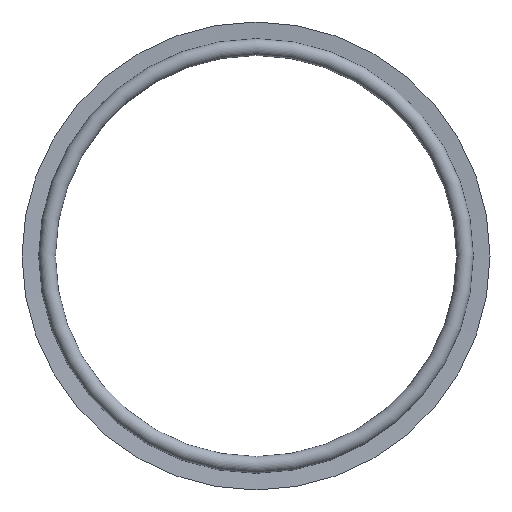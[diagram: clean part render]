
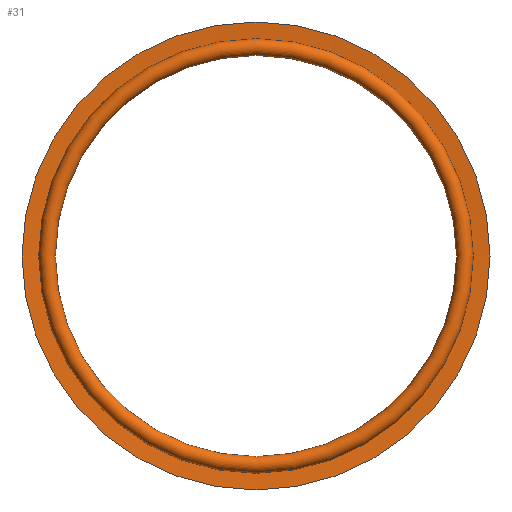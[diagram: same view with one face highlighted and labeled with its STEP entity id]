
A CAD part, top view. The second image highlights one B-rep face of the part: STEP entity #31.
In plain terms, the highlighted toroidal (fillet/blend) face has major radius 5 mm and minor radius 0.2 mm.
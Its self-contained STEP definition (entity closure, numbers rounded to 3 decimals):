
#1=CARTESIAN_POINT('',(0.,0.,0.));
#2=CARTESIAN_POINT('',(5.2,0.,0.));
#3=CARTESIAN_POINT('',(5.6,0.,0.));
#4=VERTEX_POINT('',#2);
#5=VERTEX_POINT('',#3);
#10=DIRECTION('',(0.,0.,1.));
#11=DIRECTION('',(1.,0.,0.));
#12=AXIS2_PLACEMENT_3D('',#1,#10,#11);
#20=CIRCLE('',#12,5.2);
#21=CIRCLE('',#12,5.6);
#22=EDGE_CURVE('',#4,#4,#20,.T.);
#23=EDGE_CURVE('',#5,#5,#21,.T.);
#24=ORIENTED_EDGE('',*,*,#22,.T.);
#25=ORIENTED_EDGE('',*,*,#23,.T.);
#26=EDGE_LOOP('',(#24));
#27=EDGE_LOOP('',(#25));
#28=FACE_OUTER_BOUND('',#26,.T.);
#29=FACE_OUTER_BOUND('',#27,.T.);
#30=TOROIDAL_SURFACE('',#12,5.,0.2);
#31=ADVANCED_FACE('',(#28,#29),#30,.T.);
